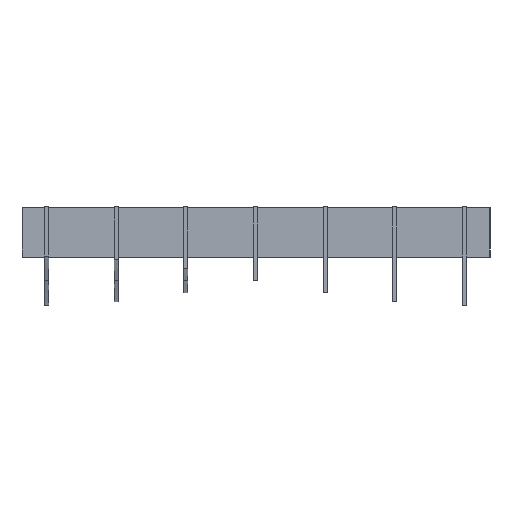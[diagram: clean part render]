
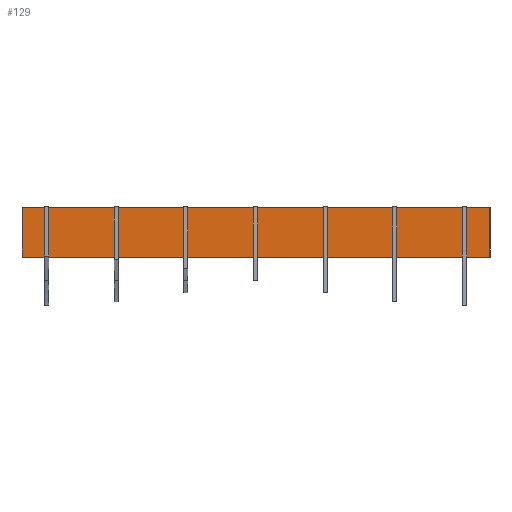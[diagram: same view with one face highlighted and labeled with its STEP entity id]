
A CAD part, left-side view. The second image highlights one B-rep face of the part: STEP entity #129.
In plain terms, the highlighted planar face has unit normal (-1, 0, 0).
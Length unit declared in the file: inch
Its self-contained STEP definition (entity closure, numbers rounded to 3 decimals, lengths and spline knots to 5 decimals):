
#129=ADVANCED_FACE('',(#201),#1006,.T.);
#201=FACE_OUTER_BOUND('',#273,.T.);
#273=EDGE_LOOP('',(#405,#406,#407,#408));
#405=ORIENTED_EDGE('',*,*,#672,.F.);
#406=ORIENTED_EDGE('',*,*,#661,.T.);
#407=ORIENTED_EDGE('',*,*,#669,.T.);
#408=ORIENTED_EDGE('',*,*,#665,.F.);
#661=EDGE_CURVE('',#910,#911,#811,.T.);
#665=EDGE_CURVE('',#914,#915,#815,.T.);
#669=EDGE_CURVE('',#911,#915,#819,.T.);
#672=EDGE_CURVE('',#910,#914,#822,.T.);
#811=B_SPLINE_CURVE_WITH_KNOTS('',1,(#1487,#1488),.UNSPECIFIED.,.F.,.F.,
(2,2),(-13.,-7.),.UNSPECIFIED.);
#815=B_SPLINE_CURVE_WITH_KNOTS('',1,(#1495,#1496),.UNSPECIFIED.,.F.,.F.,
(2,2),(-13.,-7.),.UNSPECIFIED.);
#819=B_SPLINE_CURVE_WITH_KNOTS('',1,(#1503,#1504),.UNSPECIFIED.,.F.,.F.,
(2,2),(0.,57.11046),.UNSPECIFIED.);
#822=B_SPLINE_CURVE_WITH_KNOTS('',1,(#1509,#1510),.UNSPECIFIED.,.F.,.F.,
(2,2),(0.,57.11046),.UNSPECIFIED.);
#910=VERTEX_POINT('',#1479);
#911=VERTEX_POINT('',#1480);
#914=VERTEX_POINT('',#1483);
#915=VERTEX_POINT('',#1484);
#1006=PLANE('',#1157);
#1157=AXIS2_PLACEMENT_3D('',#1475,#1256,$);
#1256=DIRECTION('',(-1.,0.,0.));
#1475=CARTESIAN_POINT('',(-1085.87377,-3.81876,393.21788));
#1479=CARTESIAN_POINT('',(-1085.87377,-3.81876,393.21788));
#1480=CARTESIAN_POINT('',(-1085.87377,-3.81876,399.21788));
#1483=CARTESIAN_POINT('',(-1085.87377,53.2917,393.21788));
#1484=CARTESIAN_POINT('',(-1085.87377,53.2917,399.21788));
#1487=CARTESIAN_POINT('',(-1085.87377,-3.81876,393.21788));
#1488=CARTESIAN_POINT('',(-1085.87377,-3.81876,399.21788));
#1495=CARTESIAN_POINT('',(-1085.87377,53.2917,393.21788));
#1496=CARTESIAN_POINT('',(-1085.87377,53.2917,399.21788));
#1503=CARTESIAN_POINT('',(-1085.87377,-3.81876,399.21788));
#1504=CARTESIAN_POINT('',(-1085.87377,53.2917,399.21788));
#1509=CARTESIAN_POINT('',(-1085.87377,-3.81876,393.21788));
#1510=CARTESIAN_POINT('',(-1085.87377,53.2917,393.21788));
